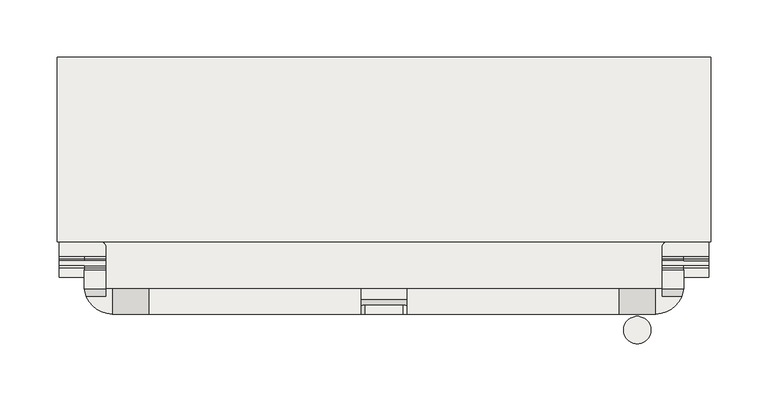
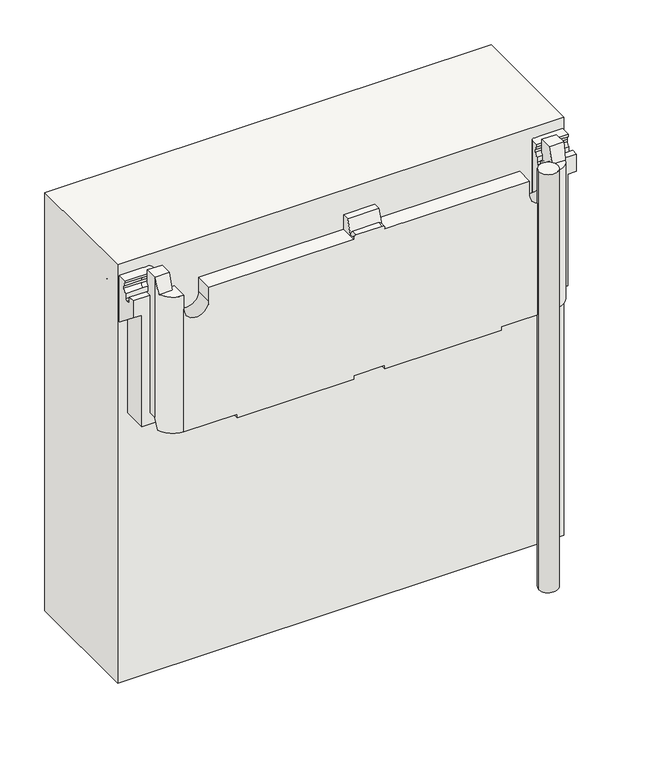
"""IFC4 building model written with IfcOpenShell, lengths in millimetres: covering geometry, panel VP Modulo prova ultima texture : panel VP Modulo prova ultima texture."""

from ifc_helpers import new_model, si_unit, point, frame, frame_2d, origin, origin_with_axes, place, context, project, spatial, polyline, circle_curve, ellipse_curve, trimmed, segment, composite_curve, outline, extrude, source, transform, mapped, element, save
from ifc_brep_helpers import plane_surface, cylinder_surface, revolved_surface, advanced_brep


def covering_1d8d7e28(model_context):
    return source(origin(), model_context, "Body", "SolidModel", [
        advanced_brep(
        [(-20.0, 40.503817, 567.5220564), (-20.0, 49.5015434, 567.5220564), (-20.0, 49.5015434, 547.5249996), (-20.0, 27.5015432, 547.5249996), (-20.0, 27.5015432, 549.5249996), (-20.0, 34.5021229, 549.5249996), (20.0, 49.5015434, 567.5220564), (20.0, 40.503817, 567.5220564), (20.0, 34.5021229, 549.5249996), (20.0, 27.5015432, 549.5249996), (20.0, 27.5015432, 547.5249996), (20.0, 49.5015434, 547.5249996), (-17.0, 35.5025688, 552.5249996), (17.0, 35.5025688, 552.5249996), (17.0, 27.5015432, 552.5249996), (-17.0, 27.5015432, 552.5249996), (-262.4808119, 49.5015434, 567.5198754), (-262.4808119, 65.772467, 567.5198754), (-262.4808119, 65.772467, 549.5768312), (-262.4808119, 63.7739273, 544.6813202), (-262.4808119, 63.7739273, 541.6813202), (-262.4808119, 67.7745502, 536.9851203), (-262.4808119, 59.5, 536.9851203), (-262.4808119, 59.5, 377.5207128), (-262.4808119, 49.5015434, 377.5207128), (262.4808119, 67.7745502, 536.9851203), (262.4808119, 63.7739273, 541.6813202), (262.4808119, 63.7739273, 544.6813202), (262.4808119, 65.772467, 549.5768312), (262.4808119, 65.772467, 567.5198754), (262.4808119, 49.5015434, 567.5198754), (262.4808119, 49.5015434, 377.5207128), (262.4808119, 59.5, 377.5207128), (262.4808119, 59.5, 536.9851203), (205.7808119, 27.5015432, 547.5249996), (205.7808119, 49.5015434, 547.5249996), (243.7808119, 42.6167555, 547.5249996), (243.7808119, 49.5015434, 547.5249996), (237.7808119, 49.5015434, 547.5249996), (237.7808119, 27.5015432, 547.5249996), (260.6550436, 42.6167555, 547.5249996), (-237.7808119, 27.5015432, 547.5249996), (-237.7808119, 49.5015434, 547.5249996), (-243.7808119, 49.5015434, 547.5249996), (-243.7808119, 42.6167555, 547.5249996), (-260.6550436, 42.6167555, 547.5249996), (-205.7808119, 49.5015434, 547.5249996), (-205.7808119, 27.5015432, 547.5249996), (-262.4808119, 109.8415131, 384.5213892), (262.4808119, 109.8415131, 384.5213892), (262.4808119, 141.2113001, 412.1618818), (-262.4808119, 141.2113001, 412.1618818), (-262.4808119, 147.3447094, 418.6241094), (262.4808119, 147.3447094, 418.6241094), (262.4808119, 184.4941844, 465.5067645), (-262.4808119, 184.4941844, 465.5067645), (262.4808119, 184.4941844, 492.5056194), (-262.4808119, 184.4941844, 492.5056194), (284.4808119, 184.4914281, 492.5056194), (284.4808119, 202.488872, 492.5056194), (-284.4808119, 202.488872, 492.5056194), (-284.4808119, 184.4914281, 492.5056194), (-284.4808119, 202.488872, 452.7923442), (284.4808119, 202.488872, 452.7923442), (262.4808119, 193.4423608, 411.4138134), (-262.4808119, 193.4423608, 411.4138134), (-284.4808119, 193.4423608, 411.4138134), (284.4808119, 193.4423608, 411.4138134), (262.4808119, 190.281945, 410.2861233), (-262.4808119, 190.281945, 410.2861233), (284.4808119, 190.281945, 410.2861233), (284.4808119, 59.5, 513.9167777), (273.4808119, 59.5, 513.9167777), (273.4808119, 180.2456216, 418.2388324), (262.4808119, 180.2456216, 418.2388324), (-262.4808119, 180.2456216, 418.2388324), (-273.4808119, 180.2456216, 418.2388324), (-273.4808119, 59.5, 513.9167777), (-284.4808119, 59.5, 513.9167777), (-284.4808119, 190.281945, 410.2861233), (262.4808119, 174.5899002, 417.5837505), (-262.4808119, 174.5899002, 417.5837505), (273.4808119, 174.5899002, 417.5837505), (273.4808119, 160.5878776, 399.9132262), (-273.4808119, 160.5878776, 399.9132262), (-273.4808119, 174.5899002, 417.5837505), (-273.4808119, 118.1414154, 362.5128727), (273.4808119, 118.1414154, 362.5128727), (237.7808119, 118.1414154, 362.5128727), (197.7808119, 118.1414154, 362.5128727), (20.0, 118.1414154, 362.5128727), (-20.0, 118.1414154, 362.5128727), (-197.7808119, 118.1414154, 362.5128727), (-237.7808119, 118.1414154, 362.5128727), (-273.4808119, 59.5, 362.5250013), (-237.7808119, 78.1414154, 362.5250013), (-197.7808119, 78.1414154, 362.5250013), (-20.0, 78.1414154, 362.5250013), (20.0, 78.1414154, 362.5250013), (197.7808119, 78.1414154, 362.5250013), (237.7808119, 78.1414154, 362.5250013), (273.4808119, 59.5, 362.5250013), (252.4808119, 59.5, 362.5250013), (252.4808119, 44.6291413, 362.5250013), (261.4118126, 44.6291413, 362.5250013), (237.7808119, 27.5015432, 362.5250013), (169.4808119, 27.5015432, 362.5250013), (169.4808119, 67.5015432, 362.5250013), (20.0, 67.5015432, 362.5250013), (20.0, 27.5015432, 362.5250013), (-20.0, 27.5015432, 362.5250013), (-20.0, 67.5015432, 362.5250013), (-169.4808119, 67.5015432, 362.5250013), (-169.4808119, 27.5015432, 362.5250013), (-237.7808119, 27.5015432, 362.5250013), (-261.4118126, 44.6291413, 362.5250013), (-252.4808119, 44.6291413, 362.5250013), (-252.4808119, 59.5, 362.5250013), (-205.7808119, 27.5015432, 528.501469), (-237.7808119, 27.5015432, 528.501469), (-169.4808119, 27.5015432, 357.5154158), (-20.0, 27.5015432, 357.5154158), (20.0, 27.5015432, 357.5154158), (169.4808119, 27.5015432, 357.5154158), (237.7808119, 27.5015432, 528.501469), (205.7808119, 27.5015432, 528.501469), (-237.7808119, 49.5015434, 528.501469), (-205.7808119, 49.5015434, 528.501469), (205.7808119, 49.5015434, 528.501469), (237.7808119, 49.5015434, 528.501469), (243.7808119, 49.5015434, 384.5213892), (-243.7808119, 49.5015434, 384.5213892), (-262.4808119, 101.3665857, 384.5213892), (-251.8742102, 90.7599839, 384.5213892), (-248.1742102, 90.7599839, 384.5213892), (-243.7808119, 86.3665857, 384.5213892), (243.7808119, 86.3665857, 384.5213892), (248.1742102, 90.7599839, 384.5213892), (251.8742102, 90.7599839, 384.5213892), (262.4808119, 101.3665857, 384.5213892), (-284.4808119, 59.5, 536.9851203), (-284.4808119, 67.7745502, 536.9851203), (-284.4808119, 67.7745502, 529.9852856), (-284.4808119, 69.7745502, 527.9852856), (-284.4808119, 74.0001297, 527.9852856), (-284.4808119, 76.0001297, 529.9852856), (-284.4808119, 76.0001297, 536.9851203), (-284.4808119, 80.0007527, 541.6813202), (-284.4808119, 80.0007527, 544.6813202), (-284.4808119, 78.002213, 549.5768312), (-284.4808119, 78.002213, 552.5285461), (-284.4808119, 115.166168, 552.5285461), (-284.4808119, 118.166168, 549.5285461), (-284.4808119, 118.166168, 533.2479937), (-284.4808119, 119.6447617, 530.6623946), (-262.4808119, 119.6447617, 530.6623946), (-262.4808119, 118.166168, 533.2479937), (-262.4808119, 118.166168, 549.5285461), (-262.4808119, 115.166168, 552.5285461), (-262.4808119, 101.3665857, 552.5285461), (-252.4808119, 59.5, 377.5207128), (-243.7808119, 67.7745502, 536.9851203), (-243.7808119, 67.7745502, 529.9852856), (-262.4808119, 67.7745502, 529.9852856), (-262.4808119, 69.7745502, 527.9852856), (-243.7808119, 69.7745502, 527.9852856), (-243.7808119, 74.0001297, 527.9852856), (-262.4808119, 74.0001297, 527.9852856), (-262.4808119, 76.0001297, 529.9852856), (-243.7808119, 76.0001297, 529.9852856), (-243.7808119, 76.0001297, 536.9851203), (-262.4808119, 76.0001297, 536.9851203), (-262.4808119, 80.0007527, 541.6813202), (-243.7808119, 80.0007527, 541.6813202), (-243.7808119, 80.0007527, 544.6813202), (-262.4808119, 80.0007527, 544.6813202), (-262.4808119, 78.002213, 549.5768312), (-243.7808119, 78.002213, 549.5768312), (-243.7808119, 78.002213, 552.5285461), (-243.7808119, 86.3665857, 552.5285461), (-248.1742102, 90.7599839, 552.5285461), (-251.8742102, 90.7599839, 552.5285461), (-243.7808119, 63.7739273, 541.6813202), (-243.7808119, 63.7739273, 544.6813202), (-243.7808119, 65.772467, 549.5768312), (-243.7808119, 65.772467, 567.5198754), (-243.7808119, 49.5015434, 567.5198754), (284.4808119, 119.6447617, 530.6623946), (284.4808119, 118.166168, 533.2479937), (284.4808119, 118.166168, 549.5285461), (284.4808119, 115.166168, 552.5285461), (284.4808119, 78.002213, 552.5285461), (284.4808119, 78.002213, 549.5768312), (284.4808119, 80.0007527, 544.6813202), (284.4808119, 80.0007527, 541.6813202), (284.4808119, 76.0001297, 536.9851203), (284.4808119, 76.0001297, 529.9852856), (284.4808119, 74.0001297, 527.9852856), (284.4808119, 69.7745502, 527.9852856), (284.4808119, 67.7745502, 529.9852856), (284.4808119, 67.7745502, 536.9851203), (284.4808119, 59.5, 536.9851203), (262.4808119, 115.166168, 552.5285461), (262.4808119, 118.166168, 549.5285461), (262.4808119, 118.166168, 533.2479937), (262.4808119, 119.6447617, 530.6623946), (262.4808119, 101.3665857, 552.5285461), (252.4808119, 59.5, 377.5207128), (262.4808119, 69.7745502, 527.9852856), (262.4808119, 67.7745502, 529.9852856), (262.4808119, 76.0001297, 529.9852856), (262.4808119, 74.0001297, 527.9852856), (262.4808119, 80.0007527, 541.6813202), (262.4808119, 76.0001297, 536.9851203), (262.4808119, 78.002213, 549.5768312), (262.4808119, 80.0007527, 544.6813202), (243.7808119, 49.5015434, 567.5198754), (243.7808119, 65.772467, 567.5198754), (243.7808119, 65.772467, 549.5768312), (243.7808119, 63.7739273, 544.6813202), (243.7808119, 63.7739273, 541.6813202), (243.7808119, 67.7745502, 536.9851203), (243.7808119, 67.7745502, 529.9852856), (243.7808119, 69.7745502, 527.9852856), (243.7808119, 74.0001297, 527.9852856), (243.7808119, 76.0001297, 529.9852856), (243.7808119, 76.0001297, 536.9851203), (243.7808119, 80.0007527, 541.6813202), (243.7808119, 80.0007527, 544.6813202), (243.7808119, 78.002213, 549.5768312), (243.7808119, 78.002213, 552.5285461), (243.7808119, 86.3665857, 552.5285461), (251.8742102, 90.7599839, 552.5285461), (248.1742102, 90.7599839, 552.5285461), (237.7808119, 78.1414154, 357.5154158), (197.7808119, 78.1414154, 357.5154158), (197.7808119, 118.1414154, 357.5154158), (237.7808119, 118.1414154, 357.5154158), (-20.0, 78.1414154, 357.5154158), (-20.0, 118.1414154, 357.5154158), (20.0, 118.1414154, 357.5154158), (20.0, 78.1414154, 357.5154158), (-237.7808119, 78.1414154, 357.5154158), (-237.7808119, 118.1414154, 357.5154158), (-197.7808119, 118.1414154, 357.5154158), (-197.7808119, 78.1414154, 357.5154158), (20.0, 67.5015432, 357.5154158), (169.4808119, 67.5015432, 357.5154158), (-20.0, 67.5015432, 357.5154158), (-169.4808119, 67.5015432, 357.5154158), (-252.4808119, 49.5015434, 377.5207128), (252.4808119, 49.5015434, 377.5207128)],
        [
            (0, 1),
            (1, 2),
            (2, 3),
            (3, 4),
            (4, 5),
            (5, 0),
            (6, 7),
            (7, 8),
            (8, 9),
            (9, 10),
            (10, 11),
            (11, 6),
            (0, 7),
            (6, 1),
            (5, 12, ellipse_curve(frame((-17.0, 34.5021229, 549.5249996), z_axis=(0.0, 0.9486409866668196, -0.31635467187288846), x_axis=(0.0, 0.31635467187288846, 0.9486409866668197)), 3.1624187, 3.0)),
            (12, 13),
            (13, 8, ellipse_curve(frame((17.0, 34.5021229, 549.5249996), z_axis=(0.0, 0.9486409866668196, -0.31635467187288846), x_axis=(0.0, 0.31635467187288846, 0.9486409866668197)), 3.1624187, 3.0)),
            (14, 9, circle_curve(frame((17.0, 27.5015432, 549.5249996), z_axis=(0.0, 1.0, 0.0), x_axis=(-1.0, 0.0, 0.0)), 3.0)),
            (13, 14),
            (4, 15, circle_curve(frame((-17.0, 27.5015432, 549.5249996), z_axis=(0.0, 1.0, 0.0), x_axis=(-1.0, 0.0, 0.0)), 3.0)),
            (15, 12),
            (15, 14),
            (16, 17),
            (17, 18),
            (18, 19, circle_curve(frame((-262.4808119, 70.7690822, 544.6813202), z_axis=(1.0, 0.0, 0.0), x_axis=(0.0, -1.0, 0.0)), 6.9951549)),
            (19, 20),
            (20, 21, circle_curve(frame((-262.4808119, 68.5305961, 541.6813202), z_axis=(1.0, 0.0, 0.0), x_axis=(0.0, -1.0, 0.0)), 4.7566689)),
            (21, 22),
            (22, 23),
            (23, 24),
            (24, 16),
            (25, 26, circle_curve(frame((262.4808119, 68.5305961, 541.6813202), z_axis=(-1.0, 0.0, 0.0), x_axis=(0.0, -1.0, 0.0)), 4.7566689)),
            (26, 27),
            (27, 28, circle_curve(frame((262.4808119, 70.7690822, 544.6813202), z_axis=(-1.0, 0.0, 0.0), x_axis=(0.0, -1.0, 0.0)), 6.9951549)),
            (28, 29),
            (29, 30),
            (30, 31),
            (31, 32),
            (32, 33),
            (33, 25),
            (10, 34),
            (34, 35),
            (35, 11),
            (36, 37),
            (37, 38),
            (38, 39),
            (39, 40, circle_curve(frame((237.7808119, 52.367225, 547.5249996), z_axis=(0.0, 0.0, 1.0), x_axis=(1.0, 0.0, 0.0)), 24.8656818)),
            (40, 36),
            (41, 42),
            (42, 43),
            (43, 44),
            (44, 45),
            (45, 41, circle_curve(frame((-237.7808119, 52.367225, 547.5249996), z_axis=(0.0, 0.0, 1.0), x_axis=(-1.0, 0.0, 0.0)), 24.8656818)),
            (46, 47),
            (47, 3),
            (2, 46),
            (48, 49),
            (49, 50),
            (50, 51),
            (51, 48),
            (52, 53),
            (53, 54),
            (54, 55),
            (55, 52),
            (54, 56),
            (56, 57),
            (57, 55),
            (56, 58),
            (58, 59),
            (59, 60),
            (60, 61),
            (61, 57),
            (62, 60),
            (59, 63),
            (63, 62),
            (64, 65),
            (65, 66),
            (66, 62),
            (63, 67),
            (67, 64),
            (64, 68, circle_curve(frame((262.4808119, 191.5102381, 411.8362298), z_axis=(-1.0, 0.0, 0.0), x_axis=(0.0, -1.0, 0.0)), 1.9777598)),
            (68, 69),
            (69, 65, circle_curve(frame((-262.4808119, 191.5102381, 411.8362298), z_axis=(1.0, 0.0, 0.0), x_axis=(0.0, -1.0, 0.0)), 1.9777598)),
            (68, 70),
            (70, 71),
            (71, 72),
            (72, 73),
            (73, 74),
            (74, 75),
            (75, 76),
            (76, 77),
            (77, 78),
            (78, 79),
            (79, 69),
            (74, 80, circle_curve(frame((262.4808119, 177.7453022, 415.0834279), z_axis=(1.0, 0.0, 0.0), x_axis=(0.0, -1.0, 0.0)), 4.0259377)),
            (80, 81),
            (81, 75, circle_curve(frame((-262.4808119, 177.7453022, 415.0834279), z_axis=(-1.0, 0.0, 0.0), x_axis=(0.0, -1.0, 0.0)), 4.0259377)),
            (80, 82),
            (82, 83),
            (83, 84),
            (84, 85),
            (85, 81),
            (86, 84),
            (83, 87),
            (87, 88),
            (88, 89),
            (89, 90),
            (90, 91),
            (91, 92),
            (92, 93),
            (93, 86),
            (50, 53, circle_curve(frame((262.4808119, 108.1562691, 449.6767445), z_axis=(1.0, 0.0, 0.0), x_axis=(0.0, -1.0, 0.0)), 50.0)),
            (52, 51, circle_curve(frame((-262.4808119, 108.1562691, 449.6767445), z_axis=(-1.0, 0.0, 0.0), x_axis=(0.0, -1.0, 0.0)), 50.0)),
            (94, 86),
            (93, 95),
            (95, 96),
            (96, 92),
            (91, 97),
            (97, 98),
            (98, 90),
            (89, 99),
            (99, 100),
            (100, 88),
            (87, 101),
            (101, 102),
            (102, 103),
            (103, 104),
            (104, 105, circle_curve(frame((237.7808119, 52.367225, 362.5250013), z_axis=(0.0, 0.0, -1.0), x_axis=(1.0, 0.0, 0.0)), 24.8656818)),
            (105, 106),
            (106, 107),
            (107, 108),
            (108, 109),
            (109, 110),
            (110, 111),
            (111, 112),
            (112, 113),
            (113, 114),
            (114, 115, circle_curve(frame((-237.7808119, 52.367225, 362.5250013), z_axis=(0.0, 0.0, -1.0), x_axis=(-1.0, 0.0, 0.0)), 24.8656818)),
            (115, 116),
            (116, 117),
            (117, 94),
            (47, 118),
            (118, 119, circle_curve(frame((-221.7808119, 27.5015432, 528.501469), z_axis=(0.0, 1.0, 0.0), x_axis=(-1.0, 0.0, 0.0)), 16.0)),
            (119, 114),
            (113, 120),
            (120, 121),
            (121, 110),
            (109, 122),
            (122, 123),
            (123, 106),
            (105, 124),
            (124, 125, circle_curve(frame((221.7808119, 27.5015432, 528.501469), z_axis=(0.0, 1.0, 0.0), x_axis=(1.0, 0.0, 0.0)), 16.0)),
            (125, 34),
            (42, 126),
            (126, 127, circle_curve(frame((-221.7808119, 49.5015434, 528.501469), z_axis=(0.0, -1.0, 0.0), x_axis=(-1.0, 0.0, 0.0)), 16.0)),
            (127, 46),
            (35, 128),
            (128, 129, circle_curve(frame((221.7808119, 49.5015434, 528.501469), z_axis=(0.0, -1.0, 0.0), x_axis=(1.0, 0.0, 0.0)), 16.0)),
            (129, 38),
            (37, 130),
            (130, 131),
            (131, 43),
            (48, 132),
            (132, 133, circle_curve(frame((-251.8742102, 101.3665857, 384.5213892), z_axis=(0.0, 0.0, 1.0), x_axis=(-1.0, 0.0, 0.0)), 10.6066017)),
            (133, 134),
            (134, 135, circle_curve(frame((-248.1742102, 86.3665857, 384.5213892), z_axis=(0.0, 0.0, -1.0), x_axis=(-1.0, 0.0, 0.0)), 4.3933983)),
            (135, 131),
            (130, 136),
            (136, 137, circle_curve(frame((248.1742102, 86.3665857, 384.5213892), z_axis=(0.0, 0.0, -1.0), x_axis=(1.0, 0.0, 0.0)), 4.3933983)),
            (137, 138),
            (138, 139, circle_curve(frame((251.8742102, 101.3665857, 384.5213892), z_axis=(0.0, 0.0, 1.0), x_axis=(1.0, 0.0, 0.0)), 10.6066017)),
            (139, 49),
            (66, 79, circle_curve(frame((-284.4808119, 191.5102381, 411.8362298), z_axis=(-1.0, 0.0, 0.0), x_axis=(0.0, -1.0, 0.0)), 1.9777598)),
            (78, 140),
            (140, 141),
            (141, 142),
            (142, 143, circle_curve(frame((-284.4808119, 69.7745502, 529.9852856), z_axis=(1.0, 0.0, 0.0), x_axis=(0.0, -1.0, 0.0)), 2.0)),
            (143, 144),
            (144, 145, circle_curve(frame((-284.4808119, 74.0001297, 529.9852856), z_axis=(1.0, 0.0, 0.0), x_axis=(0.0, -1.0, 0.0)), 2.0)),
            (145, 146),
            (146, 147, circle_curve(frame((-284.4808119, 75.2440838, 541.6813202), z_axis=(1.0, 0.0, 0.0), x_axis=(0.0, -1.0, 0.0)), 4.7566689)),
            (147, 148),
            (148, 149, circle_curve(frame((-284.4808119, 73.0055977, 544.6813202), z_axis=(1.0, 0.0, 0.0), x_axis=(0.0, -1.0, 0.0)), 6.9951549)),
            (149, 150),
            (150, 151),
            (151, 152, circle_curve(frame((-284.4808119, 115.166168, 549.5285461), z_axis=(-1.0, 0.0, 0.0), x_axis=(0.0, -1.0, 0.0)), 3.0)),
            (152, 153),
            (153, 154, circle_curve(frame((-284.4808119, 121.166168, 533.2479937), z_axis=(1.0, 0.0, 0.0), x_axis=(0.0, -1.0, 0.0)), 3.0)),
            (154, 61),
            (57, 155),
            (155, 156, circle_curve(frame((-262.4808119, 121.166168, 533.2479937), z_axis=(-1.0, 0.0, 0.0), x_axis=(0.0, -1.0, 0.0)), 3.0)),
            (156, 157),
            (157, 158, circle_curve(frame((-262.4808119, 115.166168, 549.5285461), z_axis=(1.0, 0.0, 0.0), x_axis=(0.0, -1.0, 0.0)), 3.0)),
            (158, 159),
            (159, 132),
            (77, 94),
            (117, 160),
            (160, 23),
            (22, 140),
            (141, 21),
            (21, 161),
            (161, 162),
            (162, 163),
            (163, 142),
            (163, 164, circle_curve(frame((-262.4808119, 69.7745502, 529.9852856), z_axis=(1.0, 0.0, 0.0), x_axis=(0.0, -1.0, 0.0)), 2.0)),
            (164, 143),
            (164, 165),
            (165, 166),
            (166, 167),
            (167, 144),
            (167, 168, circle_curve(frame((-262.4808119, 74.0001297, 529.9852856), z_axis=(1.0, 0.0, 0.0), x_axis=(0.0, -1.0, 0.0)), 2.0)),
            (168, 145),
            (168, 169),
            (169, 170),
            (170, 171),
            (171, 146),
            (171, 172, circle_curve(frame((-262.4808119, 75.2440838, 541.6813202), z_axis=(1.0, 0.0, 0.0), x_axis=(0.0, -1.0, 0.0)), 4.7566689)),
            (172, 147),
            (172, 173),
            (173, 174),
            (174, 175),
            (175, 148),
            (175, 176, circle_curve(frame((-262.4808119, 73.0055977, 544.6813202), z_axis=(1.0, 0.0, 0.0), x_axis=(0.0, -1.0, 0.0)), 6.9951549)),
            (176, 149),
            (176, 177),
            (177, 178),
            (178, 150),
            (178, 179),
            (179, 180, circle_curve(frame((-248.1742102, 86.3665857, 552.5285461), z_axis=(0.0, 0.0, 1.0), x_axis=(-1.0, 0.0, 0.0)), 4.3933983)),
            (180, 181),
            (181, 159, circle_curve(frame((-251.8742102, 101.3665857, 552.5285461), z_axis=(0.0, 0.0, -1.0), x_axis=(-1.0, 0.0, 0.0)), 10.6066017)),
            (158, 151),
            (157, 152),
            (156, 153),
            (155, 154),
            (76, 85, circle_curve(frame((-273.4808119, 177.7453022, 415.0834279), z_axis=(1.0, 0.0, 0.0), x_axis=(0.0, -1.0, 0.0)), 4.0259377)),
            (45, 16, ellipse_curve(frame((-237.7808119, 52.367225, 575.842419), z_axis=(0.0, 0.9455185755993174, -0.32556815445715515), x_axis=(0.0, -0.3255681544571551, -0.9455185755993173)), 76.3762716, 24.8656818)),
            (24, 115, ellipse_curve(frame((-237.7808119, 52.367225, 386.3403739), z_axis=(0.0, -0.9510565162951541, 0.3090169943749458), x_axis=(0.0, -0.30901699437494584, -0.9510565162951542)), 80.4670366, 24.8656818)),
            (119, 41),
            (177, 174, circle_curve(frame((-243.7808119, 73.0055977, 544.6813202), z_axis=(-1.0, 0.0, 0.0), x_axis=(0.0, -1.0, 0.0)), 6.9951549)),
            (173, 170, circle_curve(frame((-243.7808119, 75.2440838, 541.6813202), z_axis=(-1.0, 0.0, 0.0), x_axis=(0.0, -1.0, 0.0)), 4.7566689)),
            (169, 166, circle_curve(frame((-243.7808119, 74.0001297, 529.9852856), z_axis=(-1.0, 0.0, 0.0), x_axis=(0.0, -1.0, 0.0)), 2.0)),
            (165, 162, circle_curve(frame((-243.7808119, 69.7745502, 529.9852856), z_axis=(-1.0, 0.0, 0.0), x_axis=(0.0, -1.0, 0.0)), 2.0)),
            (161, 182, circle_curve(frame((-243.7808119, 68.5305961, 541.6813202), z_axis=(-1.0, 0.0, 0.0), x_axis=(0.0, -1.0, 0.0)), 4.7566689)),
            (182, 183),
            (183, 184, circle_curve(frame((-243.7808119, 70.7690822, 544.6813202), z_axis=(-1.0, 0.0, 0.0), x_axis=(0.0, -1.0, 0.0)), 6.9951549)),
            (184, 185),
            (185, 186),
            (186, 44),
            (135, 179),
            (16, 186),
            (185, 17),
            (184, 18),
            (183, 19),
            (182, 20),
            (134, 180),
            (133, 181),
            (39, 124),
            (104, 31, ellipse_curve(frame((237.7808119, 52.367225, 386.3403739), z_axis=(0.0, -0.9510565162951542, 0.3090169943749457), x_axis=(0.0, -0.3090169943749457, -0.9510565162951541)), 80.4670366, 24.8656818)),
            (30, 40, ellipse_curve(frame((237.7808119, 52.367225, 575.842419), z_axis=(0.0, 0.9455185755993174, -0.3255681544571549), x_axis=(0.0, -0.3255681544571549, -0.9455185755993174)), 76.3762716, 24.8656818)),
            (58, 187),
            (187, 188, circle_curve(frame((284.4808119, 121.166168, 533.2479937), z_axis=(-1.0, 0.0, 0.0), x_axis=(0.0, -1.0, 0.0)), 3.0)),
            (188, 189),
            (189, 190, circle_curve(frame((284.4808119, 115.166168, 549.5285461), z_axis=(1.0, 0.0, 0.0), x_axis=(0.0, -1.0, 0.0)), 3.0)),
            (190, 191),
            (191, 192),
            (192, 193, circle_curve(frame((284.4808119, 73.0055977, 544.6813202), z_axis=(-1.0, 0.0, 0.0), x_axis=(0.0, -1.0, 0.0)), 6.9951549)),
            (193, 194),
            (194, 195, circle_curve(frame((284.4808119, 75.2440838, 541.6813202), z_axis=(-1.0, 0.0, 0.0), x_axis=(0.0, -1.0, 0.0)), 4.7566689)),
            (195, 196),
            (196, 197, circle_curve(frame((284.4808119, 74.0001297, 529.9852856), z_axis=(-1.0, 0.0, 0.0), x_axis=(0.0, -1.0, 0.0)), 2.0)),
            (197, 198),
            (198, 199, circle_curve(frame((284.4808119, 69.7745502, 529.9852856), z_axis=(-1.0, 0.0, 0.0), x_axis=(0.0, -1.0, 0.0)), 2.0)),
            (199, 200),
            (200, 201),
            (201, 71),
            (70, 67, circle_curve(frame((284.4808119, 191.5102381, 411.8362298), z_axis=(1.0, 0.0, 0.0), x_axis=(0.0, -1.0, 0.0)), 1.9777598)),
            (202, 203, circle_curve(frame((262.4808119, 115.166168, 549.5285461), z_axis=(-1.0, 0.0, 0.0), x_axis=(0.0, -1.0, 0.0)), 3.0)),
            (203, 204),
            (204, 205, circle_curve(frame((262.4808119, 121.166168, 533.2479937), z_axis=(1.0, 0.0, 0.0), x_axis=(0.0, -1.0, 0.0)), 3.0)),
            (205, 56),
            (139, 206),
            (206, 202),
            (201, 33),
            (32, 207),
            (207, 102),
            (101, 72),
            (198, 208),
            (208, 209, circle_curve(frame((262.4808119, 69.7745502, 529.9852856), z_axis=(-1.0, 0.0, 0.0), x_axis=(0.0, -1.0, 0.0)), 2.0)),
            (209, 199),
            (196, 210),
            (210, 211, circle_curve(frame((262.4808119, 74.0001297, 529.9852856), z_axis=(-1.0, 0.0, 0.0), x_axis=(0.0, -1.0, 0.0)), 2.0)),
            (211, 197),
            (194, 212),
            (212, 213, circle_curve(frame((262.4808119, 75.2440838, 541.6813202), z_axis=(-1.0, 0.0, 0.0), x_axis=(0.0, -1.0, 0.0)), 4.7566689)),
            (213, 195),
            (192, 214),
            (214, 215, circle_curve(frame((262.4808119, 73.0055977, 544.6813202), z_axis=(-1.0, 0.0, 0.0), x_axis=(0.0, -1.0, 0.0)), 6.9951549)),
            (215, 193),
            (189, 203),
            (202, 190),
            (188, 204),
            (187, 205),
            (200, 25),
            (36, 216),
            (216, 217),
            (217, 218),
            (218, 219, circle_curve(frame((243.7808119, 70.7690822, 544.6813202), z_axis=(1.0, 0.0, 0.0), x_axis=(0.0, -1.0, 0.0)), 6.9951549)),
            (219, 220),
            (220, 221, circle_curve(frame((243.7808119, 68.5305961, 541.6813202), z_axis=(1.0, 0.0, 0.0), x_axis=(0.0, -1.0, 0.0)), 4.7566689)),
            (221, 222),
            (222, 223, circle_curve(frame((243.7808119, 69.7745502, 529.9852856), z_axis=(1.0, 0.0, 0.0), x_axis=(0.0, -1.0, 0.0)), 2.0)),
            (223, 224),
            (224, 225, circle_curve(frame((243.7808119, 74.0001297, 529.9852856), z_axis=(1.0, 0.0, 0.0), x_axis=(0.0, -1.0, 0.0)), 2.0)),
            (225, 226),
            (226, 227, circle_curve(frame((243.7808119, 75.2440838, 541.6813202), z_axis=(1.0, 0.0, 0.0), x_axis=(0.0, -1.0, 0.0)), 4.7566689)),
            (227, 228),
            (228, 229, circle_curve(frame((243.7808119, 73.0055977, 544.6813202), z_axis=(1.0, 0.0, 0.0), x_axis=(0.0, -1.0, 0.0)), 6.9951549)),
            (229, 230),
            (230, 231),
            (231, 136),
            (221, 25),
            (209, 222),
            (208, 223),
            (29, 217),
            (216, 30),
            (28, 218),
            (27, 219),
            (26, 220),
            (211, 224),
            (210, 225),
            (213, 226),
            (212, 227),
            (215, 228),
            (214, 229),
            (191, 230),
            (206, 232, circle_curve(frame((251.8742102, 101.3665857, 552.5285461), z_axis=(0.0, 0.0, -1.0), x_axis=(1.0, 0.0, 0.0)), 10.6066017)),
            (232, 233),
            (233, 231, circle_curve(frame((248.1742102, 86.3665857, 552.5285461), z_axis=(0.0, 0.0, 1.0), x_axis=(1.0, 0.0, 0.0)), 4.3933983)),
            (233, 137),
            (232, 138),
            (119, 126),
            (127, 118),
            (129, 124),
            (125, 128),
            (82, 73, circle_curve(frame((273.4808119, 177.7453022, 415.0834279), z_axis=(-1.0, 0.0, 0.0), x_axis=(0.0, -1.0, 0.0)), 4.0259377)),
            (234, 235),
            (235, 236),
            (236, 237),
            (237, 234),
            (234, 100),
            (99, 235),
            (89, 236),
            (88, 237),
            (238, 239),
            (239, 240),
            (240, 241),
            (241, 238),
            (241, 98),
            (97, 238),
            (240, 90),
            (239, 91),
            (242, 243),
            (243, 244),
            (244, 245),
            (245, 242),
            (245, 96),
            (95, 242),
            (244, 92),
            (243, 93),
            (246, 247),
            (247, 123),
            (122, 246),
            (248, 121),
            (120, 249),
            (249, 248),
            (108, 246),
            (247, 107),
            (249, 112),
            (111, 248),
            (250, 160),
            (116, 250),
            (250, 24),
            (251, 103),
            (207, 251),
            (31, 251),
        ],
        [
            plane_surface(frame((-20.0, 49.5042184, 567.5220564), z_axis=(-1.0, 0.0, 0.0), x_axis=(0.0, 1.0, 0.0))),
            plane_surface(frame((20.0, 49.5042184, 567.5220564), z_axis=(1.0, 0.0, 0.0), x_axis=(0.0, -1.0, 0.0))),
            plane_surface(frame((-20.0, 40.503817, 567.5220564), z_axis=(0.0, 0.0, 1.0), x_axis=(1.0, 0.0, 0.0))),
            plane_surface(frame((-20.0, 33.835159, 547.5249996), z_axis=(0.0, -0.9486409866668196, 0.31635467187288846), x_axis=(1.0, 0.0, 0.0))),
            cylinder_surface(frame((17.0, 27.5015432, 549.5249996), z_axis=(0.0, 1.0, 0.0), x_axis=(-1.0, 0.0, 0.0)), 3.0),
            cylinder_surface(frame((-17.0, 27.5015432, 549.5249996), z_axis=(0.0, 1.0, 0.0), x_axis=(-1.0, 0.0, 0.0)), 3.0),
            plane_surface(frame((-17.0, 49.501543, 552.5249996), z_axis=(0.0, 0.0, 1.0), x_axis=(0.0, -1.0, 0.0))),
            plane_surface(frame((-262.4808119, 118.1414154, 362.5128727), z_axis=(-1.0, 0.0, 0.0), x_axis=(0.0, -0.7502972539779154, -0.6611006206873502))),
            plane_surface(frame((262.4808119, 118.1414154, 362.5128727), z_axis=(1.0, 0.0, 0.0), x_axis=(0.0, 0.7502972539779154, 0.6611006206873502))),
            plane_surface(frame((-262.4808119, 27.5015432, 547.5249996), z_axis=(0.0, 0.0, 1.0), x_axis=(1.0, 0.0, 0.0))),
            plane_surface(frame((-262.4808119, 109.8415131, 384.5213892), z_axis=(0.0, -0.6611006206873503, 0.7502972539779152), x_axis=(1.0, 0.0, 0.0))),
            plane_surface(frame((-262.4808119, 147.3447094, 418.6241094), z_axis=(0.0, -0.7837688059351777, 0.6210527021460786), x_axis=(1.0, 0.0, 0.0))),
            plane_surface(frame((-262.4808119, 184.4941844, 465.5067645), z_axis=(0.0, -1.0, 0.0), x_axis=(1.0, 0.0, 0.0))),
            plane_surface(frame((-262.4808119, 184.4941844, 492.5056194), z_axis=(0.0, 0.0, 1.0), x_axis=(1.0, 0.0, 0.0))),
            plane_surface(frame((-262.4808119, 202.488872, 492.5056194), z_axis=(0.0, 1.0, 0.0), x_axis=(1.0, 0.0, 0.0))),
            plane_surface(frame((-262.4808119, 202.488872, 452.7923442), z_axis=(0.0, 0.9769248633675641, -0.21358326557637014), x_axis=(1.0, 0.0, 0.0))),
            cylinder_surface(frame((262.4808119, 191.5102381, 411.8362298), z_axis=(-1.0, 0.0, 0.0), x_axis=(0.0, -1.0, 0.0)), 1.9777598),
            plane_surface(frame((-262.4808119, 190.281945, 410.2861233), z_axis=(0.0, -0.6210526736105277, -0.7837688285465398), x_axis=(1.0, 0.0, 0.0))),
            revolved_surface(polyline([(262.4808119, 173.71936449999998, 415.0834279), (-262.4808119, 173.71936449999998, 415.0834279)]), (262.4808119, 177.7453022, 415.0834279), (1.0, 0.0, 0.0)),
            plane_surface(frame((-262.4808119, 174.5899002, 417.5837505), z_axis=(0.0, 0.7837682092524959, -0.6210534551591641), x_axis=(1.0, 0.0, 0.0))),
            plane_surface(frame((-262.4808119, 160.5878776, 399.9132262), z_axis=(0.0, 0.6611006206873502, -0.7502972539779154), x_axis=(1.0, 0.0, 0.0))),
            revolved_surface(polyline([(262.4808119, 58.1562691, 449.6767445), (-262.4808119, 58.1562691, 449.6767445)]), (262.4808119, 108.1562691, 449.6767445), (1.0, 0.0, 0.0)),
            plane_surface(frame((-262.4808119, 118.1551803, 362.5250013), z_axis=(0.0, 0.0, -1.0), x_axis=(1.0, 0.0, 0.0))),
            plane_surface(frame((-262.4808119, 27.5015432, 362.5250013), z_axis=(0.0, -1.0, 0.0), x_axis=(1.0, 0.0, 0.0))),
            plane_surface(frame((-262.4808119, 49.5015434, 547.5249996), z_axis=(0.0, 1.0, 0.0), x_axis=(1.0, 0.0, 0.0))),
            plane_surface(frame((-262.4808119, 49.5015434, 384.5213892), z_axis=(0.0, 0.0, 1.0), x_axis=(1.0, 0.0, 0.0))),
            plane_surface(frame((-284.4808119, 202.488872, 452.7923442), z_axis=(-1.0000000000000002, 0.0, 0.0), x_axis=(0.0, -0.21358326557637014, -0.9769248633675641))),
            plane_surface(frame((-262.4808119, 202.488872, 452.7923442), z_axis=(1.0000000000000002, 0.0, 0.0), x_axis=(0.0, 0.21358326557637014, 0.9769248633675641))),
            cylinder_surface(frame((-262.4808119, 191.5102381, 411.8362298), z_axis=(-1.0, 0.0, 0.0), x_axis=(0.0, -1.0, 0.0)), 1.9777598),
            plane_surface(frame((-284.4808119, 59.5, 513.9167777), z_axis=(0.0, -1.0, 0.0), x_axis=(1.0, 0.0, 0.0))),
            plane_surface(frame((-284.4808119, 67.7745502, 536.9851203), z_axis=(0.0, 1.0, 0.0), x_axis=(1.0, 0.0, 0.0))),
            revolved_surface(polyline([(-262.4808119, 67.7745502, 529.9852856), (-284.4808119, 67.7745502, 529.9852856)]), (-262.4808119, 69.7745502, 529.9852856), (1.0, 0.0, 0.0)),
            plane_surface(frame((-284.4808119, 69.7745502, 527.9852856), z_axis=(0.0, 0.0, 1.0), x_axis=(1.0, 0.0, 0.0))),
            revolved_surface(polyline([(-262.4808119, 72.0001297, 529.9852856), (-284.4808119, 72.0001297, 529.9852856)]), (-262.4808119, 74.0001297, 529.9852856), (1.0, 0.0, 0.0)),
            plane_surface(frame((-284.4808119, 76.0001297, 529.9852856), z_axis=(0.0, -1.0, 0.0), x_axis=(1.0, 0.0, 0.0))),
            revolved_surface(polyline([(-262.4808119, 70.4874149, 541.6813202), (-284.4808119, 70.4874149, 541.6813202)]), (-262.4808119, 75.2440838, 541.6813202), (1.0, 0.0, 0.0)),
            plane_surface(frame((-284.4808119, 80.0007527, 541.6813202), z_axis=(0.0, -1.0, 0.0), x_axis=(1.0, 0.0, 0.0))),
            revolved_surface(polyline([(-262.4808119, 66.01044279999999, 544.6813202), (-284.4808119, 66.01044279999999, 544.6813202)]), (-262.4808119, 73.0055977, 544.6813202), (1.0, 0.0, 0.0)),
            plane_surface(frame((-284.4808119, 78.002213, 549.5768312), z_axis=(0.0, -1.0, 0.0), x_axis=(1.0, 0.0, 0.0))),
            plane_surface(frame((-284.4808119, 78.002213, 552.5285461), z_axis=(0.0, 0.0, 1.0), x_axis=(1.0, 0.0, 0.0))),
            cylinder_surface(frame((-262.4808119, 115.166168, 549.5285461), z_axis=(-1.0, 0.0, 0.0), x_axis=(0.0, -1.0, 0.0)), 3.0),
            plane_surface(frame((-284.4808119, 118.166168, 549.5285461), z_axis=(0.0, 1.0, 0.0), x_axis=(1.0, 0.0, 0.0))),
            revolved_surface(polyline([(-262.4808119, 118.166168, 533.2479937), (-284.4808119, 118.166168, 533.2479937)]), (-262.4808119, 121.166168, 533.2479937), (1.0, 0.0, 0.0)),
            plane_surface(frame((-284.4808119, 119.6447617, 530.6623946), z_axis=(0.0, 0.5071354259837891, 0.8618663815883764), x_axis=(1.0, 0.0, 0.0))),
            plane_surface(frame((-284.4808119, 59.5, 536.9851203), z_axis=(0.0, 0.0, 1.0), x_axis=(1.0, 0.0, 0.0))),
            plane_surface(frame((-273.4808119, 174.5899002, 417.5837505), z_axis=(-1.0, 0.0, 0.0), x_axis=(0.0, -0.6210534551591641, -0.7837682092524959))),
            revolved_surface(polyline([(-262.4808119, 173.71936449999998, 415.0834279), (-273.4808119, 173.71936449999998, 415.0834279)]), (-262.4808119, 177.7453022, 415.0834279), (1.0, 0.0, 0.0)),
            cylinder_surface(frame((-237.7808119, 52.367225, 357.5154158), z_axis=(0.0, 0.0, -1.0), x_axis=(-1.0, 0.0, 0.0)), 24.8656818),
            plane_surface(frame((-243.7808119, 33.2976457, 547.5249996), z_axis=(1.0, 0.0, 0.0), x_axis=(0.0, 1.0, 0.0))),
            revolved_surface(polyline([(-243.7808119, 67.7745502, 529.9852856), (-262.4808119, 67.7745502, 529.9852856)]), (-243.7808119, 69.7745502, 529.9852856), (1.0, 0.0, 0.0)),
            plane_surface(frame((-262.4808119, 49.5015434, 567.5198754), z_axis=(0.0, 0.0, 1.0), x_axis=(1.0, 0.0, 0.0))),
            plane_surface(frame((-262.4808119, 65.772467, 567.5198754), z_axis=(0.0, 1.0, 0.0), x_axis=(1.0, 0.0, 0.0))),
            revolved_surface(polyline([(-243.7808119, 63.7739273, 544.6813202), (-262.4808119, 63.7739273, 544.6813202)]), (-243.7808119, 70.7690822, 544.6813202), (1.0, 0.0, 0.0)),
            plane_surface(frame((-262.4808119, 63.7739273, 544.6813202), z_axis=(0.0, 1.0, 0.0), x_axis=(1.0, 0.0, 0.0))),
            revolved_surface(polyline([(-243.7808119, 63.773927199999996, 541.6813202), (-262.4808119, 63.773927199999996, 541.6813202)]), (-243.7808119, 68.5305961, 541.6813202), (1.0, 0.0, 0.0)),
            revolved_surface(polyline([(-243.7808119, 72.0001297, 529.9852856), (-262.4808119, 72.0001297, 529.9852856)]), (-243.7808119, 74.0001297, 529.9852856), (1.0, 0.0, 0.0)),
            revolved_surface(polyline([(-243.7808119, 70.4874149, 541.6813202), (-262.4808119, 70.4874149, 541.6813202)]), (-243.7808119, 75.2440838, 541.6813202), (1.0, 0.0, 0.0)),
            revolved_surface(polyline([(-243.7808119, 66.01044279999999, 544.6813202), (-262.4808119, 66.01044279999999, 544.6813202)]), (-243.7808119, 73.0055977, 544.6813202), (1.0, 0.0, 0.0)),
            plane_surface(frame((-262.4808119, 42.6167555, 547.5249996), z_axis=(0.0, -0.9455185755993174, 0.32556815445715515), x_axis=(1.0, 0.0, 0.0))),
            cylinder_surface(frame((-248.1742102, 86.3665857, 384.5213892), z_axis=(0.0, 0.0, 1.0), x_axis=(-1.0, 0.0, 0.0)), 4.3933983),
            plane_surface(frame((-248.1742102, 90.7599839, 552.5285461), z_axis=(0.0, 1.0, 0.0), x_axis=(0.0, 0.0, -1.0))),
            revolved_surface(polyline([(-262.4808119, 101.3665857, 384.5213892), (-262.4808119, 101.3665857, 552.5285461)]), (-251.8742102, 101.3665857, 384.5213892), (0.0, 0.0, -1.0)),
            cylinder_surface(frame((237.7808119, 52.367225, 357.5154158), z_axis=(0.0, 0.0, -1.0), x_axis=(1.0, 0.0, 0.0)), 24.8656818),
            plane_surface(frame((284.4808119, 202.488872, 492.5056194), z_axis=(1.0, 0.0, 0.0), x_axis=(0.0, 0.0, 1.0))),
            plane_surface(frame((262.4808119, 202.488872, 492.5056194), z_axis=(-1.0, 0.0, 0.0), x_axis=(0.0, 0.0, -1.0))),
            cylinder_surface(frame((262.4808119, 191.5102381, 411.8362298), z_axis=(1.0, 0.0, 0.0), x_axis=(0.0, -1.0, 0.0)), 1.9777598),
            plane_surface(frame((284.4808119, 59.5, 536.9851203), z_axis=(0.0, -1.0, 0.0), x_axis=(-1.0, 0.0, 0.0))),
            revolved_surface(polyline([(262.4808119, 67.7745502, 529.9852856), (284.4808119, 67.7745502, 529.9852856)]), (262.4808119, 69.7745502, 529.9852856), (-1.0, 0.0, 0.0)),
            revolved_surface(polyline([(262.4808119, 72.0001297, 529.9852856), (284.4808119, 72.0001297, 529.9852856)]), (262.4808119, 74.0001297, 529.9852856), (-1.0, 0.0, 0.0)),
            revolved_surface(polyline([(262.4808119, 70.4874149, 541.6813202), (284.4808119, 70.4874149, 541.6813202)]), (262.4808119, 75.2440838, 541.6813202), (-1.0, 0.0, 0.0)),
            revolved_surface(polyline([(262.4808119, 66.01044279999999, 544.6813202), (284.4808119, 66.01044279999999, 544.6813202)]), (262.4808119, 73.0055977, 544.6813202), (-1.0, 0.0, 0.0)),
            cylinder_surface(frame((262.4808119, 115.166168, 549.5285461), z_axis=(1.0, 0.0, 0.0), x_axis=(0.0, -1.0, 0.0)), 3.0),
            plane_surface(frame((284.4808119, 118.166168, 533.2479937), z_axis=(0.0, 1.0, 0.0), x_axis=(-1.0, 0.0, 0.0))),
            revolved_surface(polyline([(262.4808119, 118.166168, 533.2479937), (284.4808119, 118.166168, 533.2479937)]), (262.4808119, 121.166168, 533.2479937), (-1.0, 0.0, 0.0)),
            plane_surface(frame((284.4808119, 184.4914281, 492.5056194), z_axis=(0.0, 0.5071354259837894, 0.8618663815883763), x_axis=(-1.0, 0.0, 0.0))),
            plane_surface(frame((284.4808119, 67.7745502, 536.9851203), z_axis=(0.0, 0.0, 1.0), x_axis=(-1.0, 0.0, 0.0))),
            plane_surface(frame((243.7808119, 49.5015434, 242.1821377), z_axis=(-1.0, 0.0, 0.0), x_axis=(0.0, 0.0, 1.0))),
            plane_surface(frame((262.4808119, 67.7745502, 529.9852856), z_axis=(0.0, 1.0, 0.0), x_axis=(-1.0, 0.0, 0.0))),
            revolved_surface(polyline([(243.7808119, 67.7745502, 529.9852856), (262.4808119, 67.7745502, 529.9852856)]), (243.7808119, 69.7745502, 529.9852856), (-1.0, 0.0, 0.0)),
            plane_surface(frame((262.4808119, 65.772467, 567.5198754), z_axis=(0.0, 0.0, 1.0), x_axis=(-1.0, 0.0, 0.0))),
            plane_surface(frame((262.4808119, 65.772467, 549.5768312), z_axis=(0.0, 1.0, 0.0), x_axis=(-1.0, 0.0, 0.0))),
            revolved_surface(polyline([(243.7808119, 63.7739273, 544.6813202), (262.4808119, 63.7739273, 544.6813202)]), (243.7808119, 70.7690822, 544.6813202), (-1.0, 0.0, 0.0)),
            plane_surface(frame((262.4808119, 63.7739273, 541.6813202), z_axis=(0.0, 1.0, 0.0), x_axis=(-1.0, 0.0, 0.0))),
            revolved_surface(polyline([(243.7808119, 63.773927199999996, 541.6813202), (262.4808119, 63.773927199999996, 541.6813202)]), (243.7808119, 68.5305961, 541.6813202), (-1.0, 0.0, 0.0)),
            plane_surface(frame((262.4808119, 74.0001297, 527.9852856), z_axis=(0.0, 0.0, 1.0), x_axis=(-1.0, 0.0, 0.0))),
            revolved_surface(polyline([(243.7808119, 72.0001297, 529.9852856), (262.4808119, 72.0001297, 529.9852856)]), (243.7808119, 74.0001297, 529.9852856), (-1.0, 0.0, 0.0)),
            plane_surface(frame((262.4808119, 76.0001297, 536.9851203), z_axis=(0.0, -1.0, 0.0), x_axis=(-1.0, 0.0, 0.0))),
            revolved_surface(polyline([(243.7808119, 70.4874149, 541.6813202), (262.4808119, 70.4874149, 541.6813202)]), (243.7808119, 75.2440838, 541.6813202), (-1.0, 0.0, 0.0)),
            plane_surface(frame((262.4808119, 80.0007527, 544.6813202), z_axis=(0.0, -1.0, 0.0), x_axis=(-1.0, 0.0, 0.0))),
            revolved_surface(polyline([(243.7808119, 66.01044279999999, 544.6813202), (262.4808119, 66.01044279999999, 544.6813202)]), (243.7808119, 73.0055977, 544.6813202), (-1.0, 0.0, 0.0)),
            plane_surface(frame((262.4808119, 78.002213, 552.5285461), z_axis=(0.0, -1.0, 0.0), x_axis=(-1.0, 0.0, 0.0))),
            plane_surface(frame((262.4808119, 86.3665857, 552.5285461), z_axis=(0.0, 0.0, 1.0), x_axis=(-1.0, 0.0, 0.0))),
            plane_surface(frame((262.4808119, 49.5015434, 567.5198754), z_axis=(0.0, -0.9455185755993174, 0.3255681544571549), x_axis=(-1.0, 0.0, 0.0))),
            cylinder_surface(frame((248.1742102, 86.3665857, 384.5213892), z_axis=(0.0, 0.0, 1.0), x_axis=(1.0, 0.0, 0.0)), 4.3933983),
            plane_surface(frame((251.8742102, 90.7599839, 552.5285461), z_axis=(0.0, 1.0, 0.0), x_axis=(0.0, 0.0, -1.0))),
            revolved_surface(polyline([(262.4808119, 101.3665857, 384.5213892), (262.4808119, 101.3665857, 552.5285461)]), (251.8742102, 101.3665857, 384.5213892), (0.0, 0.0, -1.0)),
            plane_surface(frame((-237.7808119, 76.0001297, 528.501469), z_axis=(1.0, 0.0, 0.0), x_axis=(0.0, -1.0, 0.0))),
            plane_surface(frame((-205.7808119, 76.0001297, 559.431679), z_axis=(-1.0, 0.0, 0.0), x_axis=(0.0, -1.0, 0.0))),
            revolved_surface(polyline([(-237.7808119, 49.5015434, 528.501469), (-237.7808119, 27.5015432, 528.501469)]), (-221.7808119, -1.8695967, 528.501469), (0.0, 1.0, 0.0)),
            plane_surface(frame((237.7808119, 76.0001297, 559.431679), z_axis=(-1.0, 0.0, 0.0), x_axis=(0.0, -1.0, 0.0))),
            plane_surface(frame((205.7808119, 76.0001297, 528.501469), z_axis=(1.0, 0.0, 0.0), x_axis=(0.0, -1.0, 0.0))),
            revolved_surface(polyline([(237.7808119, 49.5015434, 528.501469), (237.7808119, 27.5015432, 528.501469)]), (221.7808119, -1.8695967, 528.501469), (0.0, 1.0, 0.0)),
            plane_surface(frame((273.4808119, 173.7193644, 415.0834279), z_axis=(1.0, 0.0, 0.0), x_axis=(0.0, 0.0, 1.0))),
            revolved_surface(polyline([(262.4808119, 173.71936449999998, 415.0834279), (273.4808119, 173.71936449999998, 415.0834279)]), (262.4808119, 177.7453022, 415.0834279), (-1.0, 0.0, 0.0)),
            plane_surface(frame((237.7808119, 78.1414154, 357.5154158), z_axis=(0.0, 0.0, -1.0), x_axis=(0.0, -1.0, 0.0))),
            plane_surface(frame((197.7808119, 78.1414154, 362.5069222), z_axis=(0.0, -1.0, 0.0), x_axis=(0.0, 0.0, -1.0))),
            plane_surface(frame((197.7808119, 118.1414154, 362.5069222), z_axis=(-1.0, 0.0, 0.0), x_axis=(0.0, 0.0, -1.0))),
            plane_surface(frame((237.7808119, 118.1414154, 362.5069222), z_axis=(0.0, 1.0, 0.0), x_axis=(0.0, 0.0, -1.0))),
            plane_surface(frame((237.7808119, 78.1414154, 362.5069222), z_axis=(1.0, 0.0, 0.0), x_axis=(0.0, 0.0, -1.0))),
            plane_surface(frame((20.0, 78.1414154, 357.5154158), z_axis=(0.0, 0.0, -1.0), x_axis=(-1.0, 0.0, 0.0))),
            plane_surface(frame((-20.0, 78.1414154, 362.5069222), z_axis=(0.0, -1.0, 0.0), x_axis=(0.0, 0.0, -1.0))),
            plane_surface(frame((20.0, 78.1414154, 362.5069222), z_axis=(1.0, 0.0, 0.0), x_axis=(0.0, 0.0, -1.0))),
            plane_surface(frame((20.0, 118.1414154, 362.5069222), z_axis=(0.0, 1.0, 0.0), x_axis=(0.0, 0.0, -1.0))),
            plane_surface(frame((-20.0, 118.1414154, 362.5069222), z_axis=(-1.0, 0.0, 0.0), x_axis=(0.0, 0.0, -1.0))),
            plane_surface(frame((-197.7808119, 78.1414154, 357.5154158), z_axis=(0.0, 0.0, -1.0), x_axis=(-1.0, 0.0, 0.0))),
            plane_surface(frame((-237.7808119, 78.1414154, 362.5069222), z_axis=(0.0, -1.0, 0.0), x_axis=(0.0, 0.0, -1.0))),
            plane_surface(frame((-197.7808119, 78.1414154, 362.5069222), z_axis=(1.0, 0.0, 0.0), x_axis=(0.0, 0.0, -1.0))),
            plane_surface(frame((-197.7808119, 118.1414154, 362.5069222), z_axis=(0.0, 1.0, 0.0), x_axis=(0.0, 0.0, -1.0))),
            plane_surface(frame((-237.7808119, 118.1414154, 362.5069222), z_axis=(-1.0, 0.0, 0.0), x_axis=(0.0, 0.0, -1.0))),
            plane_surface(frame((20.0, 27.5015432, 357.5154158), z_axis=(0.0, 0.0, -1.0), x_axis=(0.0, 1.0, 0.0))),
            plane_surface(frame((20.0, 67.5015432, 362.5069222), z_axis=(-1.0, 0.0, 0.0), x_axis=(0.0, 0.0, -1.0))),
            plane_surface(frame((169.4808119, 27.5015432, 362.5069222), z_axis=(1.0, 0.0, 0.0), x_axis=(0.0, 0.0, -1.0))),
            plane_surface(frame((169.4808119, 67.5015432, 362.5069222), z_axis=(0.0, 1.0, 0.0), x_axis=(0.0, 0.0, -1.0))),
            plane_surface(frame((-20.0, 67.5015432, 362.5069222), z_axis=(0.0, 1.0, 0.0), x_axis=(0.0, 0.0, -1.0))),
            plane_surface(frame((-169.4808119, 67.5015432, 362.5069222), z_axis=(-1.0, 0.0, 0.0), x_axis=(0.0, 0.0, -1.0))),
            plane_surface(frame((-20.0, 27.5015432, 362.5069222), z_axis=(1.0, 0.0, 0.0), x_axis=(0.0, 0.0, -1.0))),
            plane_surface(frame((-252.4808119, 59.5, 377.5207128), z_axis=(-1.0, 0.0, 0.0), x_axis=(0.0, -1.0, 0.0))),
            plane_surface(frame((-284.4808119, 49.5015434, 377.5207128), z_axis=(0.0, 0.0, -1.0), x_axis=(1.0, 0.0, 0.0))),
            plane_surface(frame((-284.4808119, 44.6291413, 362.5250013), z_axis=(0.0, 0.9510565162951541, -0.3090169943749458), x_axis=(1.0, 0.0, 0.0))),
            plane_surface(frame((252.4808119, 49.5015434, 377.5207128), z_axis=(1.0000000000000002, 0.0, 0.0), x_axis=(0.0, 0.3090169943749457, 0.9510565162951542))),
            plane_surface(frame((284.4808119, 59.5, 377.5207128), z_axis=(0.0, 0.0, -1.0), x_axis=(-1.0, 0.0, 0.0))),
            plane_surface(frame((284.4808119, 49.5015434, 377.5207128), z_axis=(0.0, 0.9510565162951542, -0.3090169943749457), x_axis=(-1.0, 0.0, 0.0))),
        ],
        [
            (0, [[1, 2, 3, 4, 5, 6]]),
            (1, [[7, 8, 9, 10, 11, 12]]),
            (2, [[-1, 13, -7, 14]]),
            (3, [[-13, -6, 15, 16, 17, -8]]),
            (4, [[18, -9, -17, 19]]),
            (5, [[20, 21, -15, -5]]),
            (6, [[22, -19, -16, -21]]),
            (7, [[23, 24, 25, 26, 27, 28, 29, 30, 31]]),
            (8, [[32, 33, 34, 35, 36, 37, 38, 39, 40]]),
            (9, [[-11, 41, 42, 43]]),
            (9, [[44, 45, 46, 47, 48]]),
            (9, [[49, 50, 51, 52, 53]]),
            (9, [[54, 55, -3, 56]]),
            (10, [[57, 58, 59, 60]]),
            (11, [[61, 62, 63, 64]]),
            (12, [[-63, 65, 66, 67]]),
            (13, [[-66, 68, 69, 70, 71, 72]]),
            (14, [[73, -70, 74, 75]]),
            (15, [[76, 77, 78, -75, 79, 80]]),
            (16, [[-76, 81, 82, 83]]),
            (17, [[-82, 84, 85, 86, 87, 88, 89, 90, 91, 92, 93, 94]]),
            (18, [[-89, 95, 96, 97]]),
            (19, [[-96, 98, 99, 100, 101, 102]]),
            (20, [[103, -100, 104, 105, 106, 107, 108, 109, 110, 111]]),
            (21, [[-59, 112, -61, 113]]),
            (22, [[114, -111, 115, 116, 117, -109, 118, 119, 120, -107, 121, 122, 123, -105, 124, 125, 126, 127, 128, 129, 130, 131, 132, 133, 134, 135, 136, 137, 138, 139, 140, 141]]),
            (23, [[142, 143, 144, -137, 145, 146, 147, -133, 148, 149, 150, -129, 151, 152, 153, -41, -10, -18, -22, -20, -4, -55]]),
            (24, [[154, 155, 156, -56, -2, -14, -12, -43, 157, 158, 159, -45, 160, 161, 162, -50]]),
            (25, [[-57, 163, 164, 165, 166, 167, -161, 168, 169, 170, 171, 172]]),
            (26, [[-78, 173, -93, 174, 175, 176, 177, 178, 179, 180, 181, 182, 183, 184, 185, 186, 187, 188, 189, -71, -73]]),
            (27, [[190, 191, 192, 193, 194, 195, -163, -60, -113, -64, -67]]),
            (28, [[-173, -77, -83, -94]]),
            (29, [[-174, -92, 196, -141, 197, 198, -29, 199]]),
            (30, [[-176, 200, 201, 202, 203, 204]]),
            (31, [[-177, -204, 205, 206]]),
            (32, [[-178, -206, 207, 208, 209, 210]]),
            (33, [[-179, -210, 211, 212]]),
            (34, [[-180, -212, 213, 214, 215, 216]]),
            (35, [[-181, -216, 217, 218]]),
            (36, [[-182, -218, 219, 220, 221, 222]]),
            (37, [[-183, -222, 223, 224]]),
            (38, [[-184, -224, 225, 226, 227]]),
            (39, [[-185, -227, 228, 229, 230, 231, -194, 232]]),
            (40, [[-186, -232, -193, 233]]),
            (41, [[-187, -233, -192, 234]]),
            (42, [[-188, -234, -191, 235]]),
            (43, [[-189, -235, -190, -72]]),
            (44, [[-175, -199, -28, -200]]),
            (45, [[-101, -103, -114, -196, -91, 236]]),
            (46, [[-236, -90, -97, -102]]),
            (47, [[-53, 237, -31, 238, -138, -144, 239]]),
            (48, [[-228, -226, 240, -220, 241, -214, 242, -208, 243, -202, 244, 245, 246, 247, 248, 249, -51, -162, -167, 250]]),
            (49, [[-243, -207, -205, -203]]),
            (50, [[-23, 251, -248, 252]]),
            (51, [[-24, -252, -247, 253]]),
            (52, [[-25, -253, -246, 254]]),
            (53, [[-26, -254, -245, 255]]),
            (54, [[-27, -255, -244, -201]]),
            (55, [[-242, -213, -211, -209]]),
            (56, [[-241, -219, -217, -215]]),
            (57, [[-240, -225, -223, -221]]),
            (58, [[-249, -251, -237, -52]]),
            (59, [[-229, -250, -166, 256]]),
            (60, [[-230, -256, -165, 257]]),
            (61, [[-231, -257, -164, -195]]),
            (62, [[-47, 258, -151, -128, 259, -37, 260]]),
            (63, [[-74, -69, 261, 262, 263, 264, 265, 266, 267, 268, 269, 270, 271, 272, 273, 274, 275, 276, -85, 277, -79]]),
            (64, [[278, 279, 280, 281, -65, -62, -112, -58, -172, 282, 283]]),
            (65, [[-277, -84, -81, -80]]),
            (66, [[-276, 284, -39, 285, 286, -125, 287, -86]]),
            (67, [[-273, 288, 289, 290]]),
            (68, [[-271, 291, 292, 293]]),
            (69, [[-269, 294, 295, 296]]),
            (70, [[-267, 297, 298, 299]]),
            (71, [[-264, 300, -278, 301]]),
            (72, [[-263, 302, -279, -300]]),
            (73, [[-262, 303, -280, -302]]),
            (74, [[-261, -68, -281, -303]]),
            (75, [[-275, 304, -40, -284]]),
            (76, [[305, 306, 307, 308, 309, 310, 311, 312, 313, 314, 315, 316, 317, 318, 319, 320, 321, -168, -160, -44]]),
            (77, [[-311, 322, -304, -274, -290, 323]]),
            (78, [[-312, -323, -289, 324]]),
            (79, [[-36, 325, -306, 326]]),
            (80, [[-35, 327, -307, -325]]),
            (81, [[-34, 328, -308, -327]]),
            (82, [[-33, 329, -309, -328]]),
            (83, [[-32, -322, -310, -329]]),
            (84, [[-313, -324, -288, -272, -293, 330]]),
            (85, [[-314, -330, -292, 331]]),
            (86, [[-315, -331, -291, -270, -296, 332]]),
            (87, [[-316, -332, -295, 333]]),
            (88, [[-317, -333, -294, -268, -299, 334]]),
            (89, [[-318, -334, -298, 335]]),
            (90, [[-319, -335, -297, -266, 336]]),
            (91, [[-320, -336, -265, -301, -283, 337, 338, 339]]),
            (92, [[-305, -48, -260, -326]]),
            (93, [[-339, 340, -169, -321]]),
            (94, [[-338, 341, -170, -340]]),
            (95, [[-337, -282, -171, -341]]),
            (96, [[342, -154, -49, -239]]),
            (97, [[343, -142, -54, -156]]),
            (98, [[-342, -143, -343, -155]]),
            (99, [[344, -258, -46, -159]]),
            (100, [[345, -157, -42, -153]]),
            (101, [[-345, -152, -344, -158]]),
            (102, [[346, -87, -287, -124, -104, -99]]),
            (103, [[-346, -98, -95, -88]]),
            (104, [[347, 348, 349, 350]]),
            (105, [[-347, 351, -122, 352]]),
            (106, [[-348, -352, -121, 353]]),
            (107, [[-349, -353, -106, 354]]),
            (108, [[-350, -354, -123, -351]]),
            (109, [[355, 356, 357, 358]]),
            (110, [[-358, 359, -119, 360]]),
            (111, [[-357, 361, -120, -359]]),
            (112, [[-356, 362, -108, -361]]),
            (113, [[-355, -360, -118, -362]]),
            (114, [[363, 364, 365, 366]]),
            (115, [[-366, 367, -116, 368]]),
            (116, [[-365, 369, -117, -367]]),
            (117, [[-364, 370, -110, -369]]),
            (118, [[-363, -368, -115, -370]]),
            (119, [[371, 372, -149, 373]]),
            (119, [[374, -146, 375, 376]]),
            (120, [[-373, -148, -132, 377]]),
            (121, [[-372, 378, -130, -150]]),
            (122, [[-371, -377, -131, -378]]),
            (123, [[-376, 379, -135, 380]]),
            (124, [[-375, -145, -136, -379]]),
            (125, [[-374, -380, -134, -147]]),
            (126, [[381, -197, -140, 382]]),
            (127, [[-381, 383, -30, -198]]),
            (128, [[-382, -139, -238, -383]]),
            (129, [[384, -126, -286, 385]]),
            (130, [[-385, -285, -38, 386]]),
            (131, [[-384, -386, -259, -127]]),
        ],
    ),
        extrude(outline(polyline([(286.2808119, 252.488872), (286.2808119, 90.7599839), (-286.2808119, 90.7599839), (-286.2808119, 252.488872), (286.2808119, 252.488872)])), origin_with_axes(), (0.0, 0.0, 1.0), 567.5198754),
        extrude(outline(composite_curve([segment(trimmed(circle_curve(frame_2d((221.7808119, 13.4534456)), 12.0), [point((209.7808119, 13.4534456))], [point((233.7808119, 13.4534456))], False, "CARTESIAN"), True, "CONTINUOUS"), segment(trimmed(circle_curve(frame_2d((221.7808119, 13.4534456)), 12.0), [point((233.7808119, 13.4534456))], [point((209.7808119, 13.4534456))], False, "CARTESIAN"), True, "CONTINUOUS")], self_intersect=False)), origin_with_axes(), (0.0, 0.0, 1.0), 567.5198754),
    ])


if __name__ == "__main__":
    model = new_model("IFC4")
    model_context = context("Model", 3, world=origin())
    ifc_project = project(units=[si_unit("LENGTHUNIT", "METRE", prefix="MILLI")], contexts=[model_context])
    site = spatial("IfcSite", under=ifc_project)
    building = spatial("IfcBuilding", under=site)
    placement = place(None, origin())
    covering_shape = covering_1d8d7e28(model_context)
    element("IfcCovering", 1, ObjectType="panel VP Modulo prova ultima texture : panel VP Modulo prova ultima texture", at=placement, inside=building, context=model_context, shape_type="MappedRepresentation", body=[
        mapped(covering_shape, transform((0.0, 0.0, 0.0), x_axis=(1.0, 0.0, 0.0), y_axis=(0.0, 1.0, 0.0), z_axis=(0.0, 0.0, 1.0))),
    ])
    save(model, "model.ifc")
